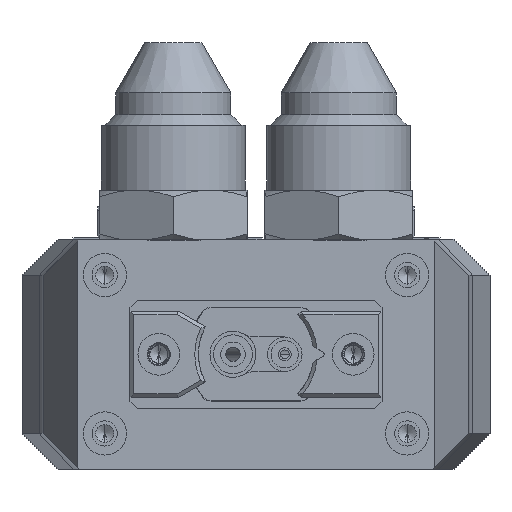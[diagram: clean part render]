
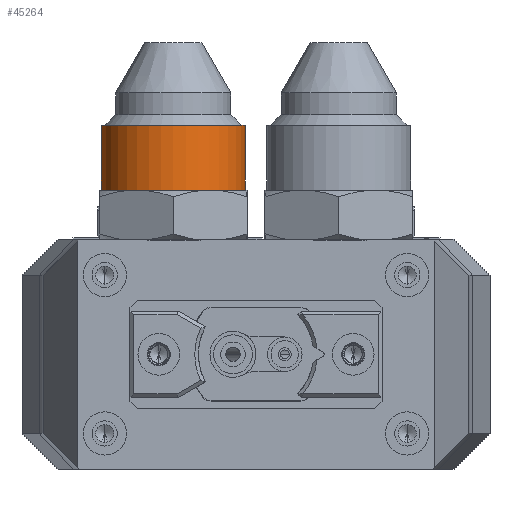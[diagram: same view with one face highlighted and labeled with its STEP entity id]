
A CAD part, front view. The second image highlights one B-rep face of the part: STEP entity #45264.
In plain terms, the highlighted cylindrical face has radius 10 mm (diameter 20 mm), a partial arc.
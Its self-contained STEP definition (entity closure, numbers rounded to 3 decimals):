
#448 = EDGE_LOOP ( 'NONE', ( #32422, #30187, #29390, #44397 ) ) ;
#637 = CARTESIAN_POINT ( 'NONE',  ( -110.366, -146.433, 1052.575 ) ) ;
#3509 = AXIS2_PLACEMENT_3D ( 'NONE', #57299, #9509, #9847 ) ;
#4071 = CARTESIAN_POINT ( 'NONE',  ( -90.366, -146.433, 1052.575 ) ) ;
#5848 = DIRECTION ( 'NONE',  ( 0., 0., 1. ) ) ;
#9509 = DIRECTION ( 'NONE',  ( 0., 0., -1. ) ) ;
#9847 = DIRECTION ( 'NONE',  ( 1., 0., 0. ) ) ;
#9951 = EDGE_CURVE ( 'NONE', #41485, #60167, #28146, .T. ) ;
#10460 = DIRECTION ( 'NONE',  ( 1., 0., 0. ) ) ;
#11893 = CARTESIAN_POINT ( 'NONE',  ( -90.366, -146.433, 1030.303 ) ) ;
#15692 = DIRECTION ( 'NONE',  ( 0., 0., 1. ) ) ;
#16088 = DIRECTION ( 'NONE',  ( 1., 0., 0. ) ) ;
#16404 = FACE_OUTER_BOUND ( 'NONE', #448, .T. ) ;
#18161 = VECTOR ( 'NONE', #5848, 1000. ) ;
#21332 = CARTESIAN_POINT ( 'NONE',  ( -100.366, -146.433, 1021.303 ) ) ;
#22694 = CIRCLE ( 'NONE', #61684, 10. ) ;
#25346 = DIRECTION ( 'NONE',  ( 0., 0., 1. ) ) ;
#28146 = LINE ( 'NONE', #637, #18161 ) ;
#28833 = VERTEX_POINT ( 'NONE', #11893 ) ;
#29390 = ORIENTED_EDGE ( 'NONE', *, *, #59619, .T. ) ;
#30187 = ORIENTED_EDGE ( 'NONE', *, *, #38664, .T. ) ;
#32422 = ORIENTED_EDGE ( 'NONE', *, *, #9951, .F. ) ;
#36099 = AXIS2_PLACEMENT_3D ( 'NONE', #58975, #15692, #10460 ) ;
#37454 = VERTEX_POINT ( 'NONE', #68422 ) ;
#38664 = EDGE_CURVE ( 'NONE', #41485, #37454, #22694, .T. ) ;
#39114 = CIRCLE ( 'NONE', #3509, 10. ) ;
#41485 = VERTEX_POINT ( 'NONE', #54736 ) ;
#42373 = VECTOR ( 'NONE', #25346, 1000. ) ;
#44397 = ORIENTED_EDGE ( 'NONE', *, *, #55958, .T. ) ;
#45264 = ADVANCED_FACE ( 'NONE', ( #16404 ), #64209, .T. ) ;
#47634 = LINE ( 'NONE', #4071, #42373 ) ;
#53815 = CARTESIAN_POINT ( 'NONE',  ( -110.366, -146.433, 1030.303 ) ) ;
#54736 = CARTESIAN_POINT ( 'NONE',  ( -110.366, -146.433, 1021.303 ) ) ;
#55958 = EDGE_CURVE ( 'NONE', #28833, #60167, #39114, .T. ) ;
#57299 = CARTESIAN_POINT ( 'NONE',  ( -100.366, -146.433, 1030.303 ) ) ;
#57958 = DIRECTION ( 'NONE',  ( 0., 0., 1. ) ) ;
#58975 = CARTESIAN_POINT ( 'NONE',  ( -100.366, -146.433, 1052.575 ) ) ;
#59619 = EDGE_CURVE ( 'NONE', #37454, #28833, #47634, .T. ) ;
#60167 = VERTEX_POINT ( 'NONE', #53815 ) ;
#61684 = AXIS2_PLACEMENT_3D ( 'NONE', #21332, #57958, #16088 ) ;
#64209 = CYLINDRICAL_SURFACE ( 'NONE', #36099, 10. ) ;
#68422 = CARTESIAN_POINT ( 'NONE',  ( -90.366, -146.433, 1021.303 ) ) ;
